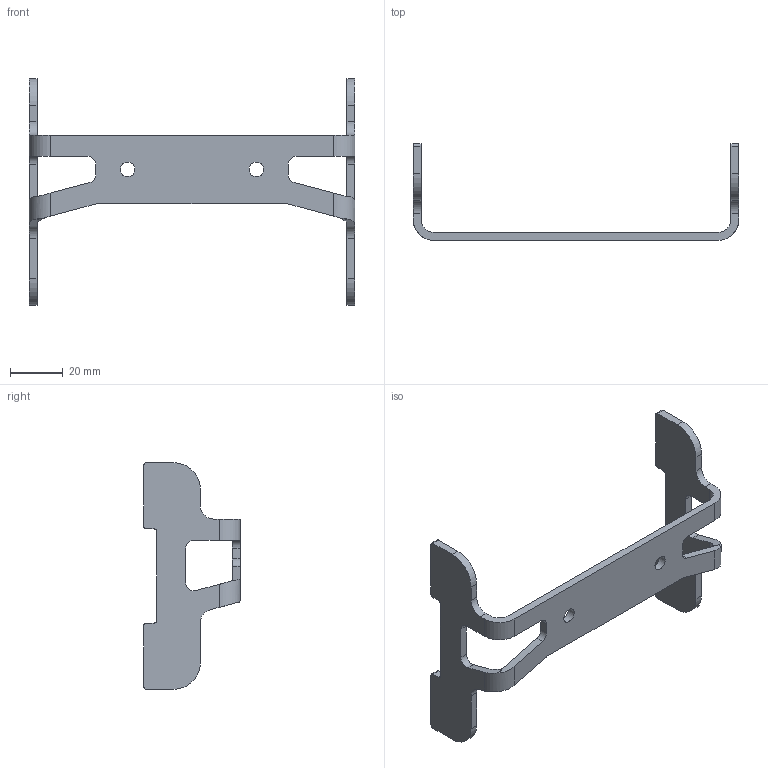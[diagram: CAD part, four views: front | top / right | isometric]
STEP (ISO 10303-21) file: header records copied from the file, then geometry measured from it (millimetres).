
FILE_DESCRIPTION(/* description */ ('STEP AP203'),/* implementation_level */ '2;1');
FILE_NAME(/* name */ 'EC0755',/* time_stamp */ '2024-12-13T10:17:23+01:00',/* author */ ('License CC BY-ND 4.0'),/* organization */ ('CADENAS'),/* preprocessor_version */ 'ST-DEVELOPER v19.3',/* originating_system */ 'PARTsolutions',/* authorisation */ ' ');
FILE_SCHEMA (('CONFIG_CONTROL_DESIGN'));
Length unit declared in the file: millimetre
Products named in the file (1): EC0755
Bounding box: 123 x 36.5 x 85.5 mm (x, y, z)
Volume: 18090.8 mm3; surface area: 14697.8 mm2
Topology: 1 solids, 1 shells, 84 faces, 256 edges, 170 vertices
Faces by surface type: plane 44, cylinder 40
Full cylindrical faces by diameter (mm): 5.5 x2
Entity records: 2926 total; most frequent: DIRECTION 510, CARTESIAN_POINT 509, ORIENTED_EDGE 508, EDGE_CURVE 254, AXIS2_PLACEMENT_3D 171, VERTEX_POINT 170, LINE 168, VECTOR 168
